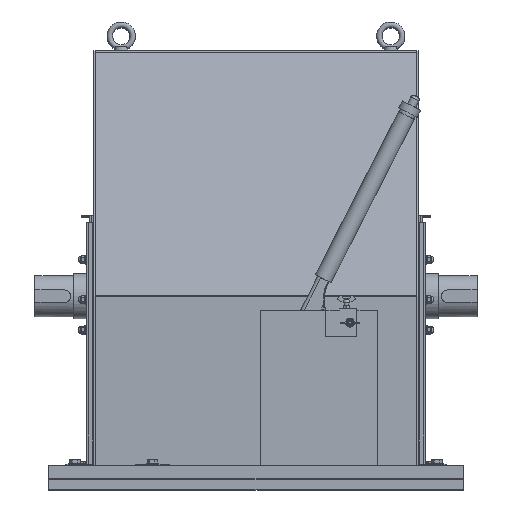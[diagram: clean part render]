
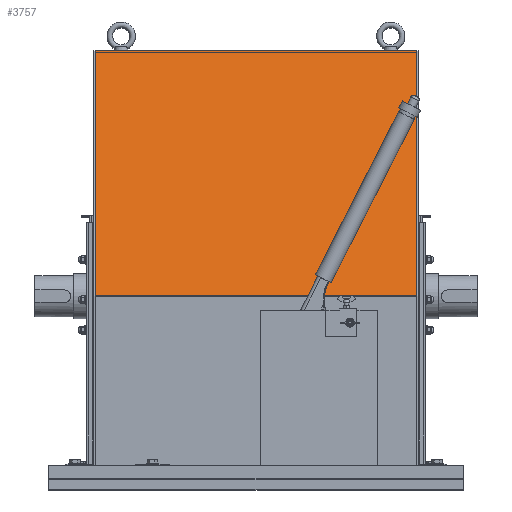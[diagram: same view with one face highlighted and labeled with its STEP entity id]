
A CAD part, top view. The second image highlights one B-rep face of the part: STEP entity #3757.
In plain terms, the highlighted planar face has unit normal (0, 0.271, 0.963).
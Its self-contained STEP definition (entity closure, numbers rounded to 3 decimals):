
#173 = VECTOR ( 'NONE', #5127, 1000. ) ;
#820 = ORIENTED_EDGE ( 'NONE', *, *, #23951, .F. ) ;
#857 = LINE ( 'NONE', #1356, #4217 ) ;
#997 = EDGE_CURVE ( 'NONE', #3687, #5518, #20334, .T. ) ;
#1356 = CARTESIAN_POINT ( 'NONE',  ( 552.7, 355., 245. ) ) ;
#2640 = CARTESIAN_POINT ( 'NONE',  ( 552.7, 355., 245. ) ) ;
#3586 = VERTEX_POINT ( 'NONE', #2640 ) ;
#3687 = VERTEX_POINT ( 'NONE', #21141 ) ;
#3757 = ADVANCED_FACE ( 'NONE', ( #6392 ), #26352, .F. ) ;
#3956 = DIRECTION ( 'NONE',  ( 0., 0.963, -0.271 ) ) ;
#4217 = VECTOR ( 'NONE', #30746, 1000. ) ;
#5127 = DIRECTION ( 'NONE',  ( -1., 0., 0. ) ) ;
#5518 = VERTEX_POINT ( 'NONE', #28576 ) ;
#6392 = FACE_OUTER_BOUND ( 'NONE', #14689, .T. ) ;
#6829 = LINE ( 'NONE', #22042, #17001 ) ;
#9850 = ORIENTED_EDGE ( 'NONE', *, *, #30032, .T. ) ;
#12484 = ORIENTED_EDGE ( 'NONE', *, *, #997, .F. ) ;
#13228 = VERTEX_POINT ( 'NONE', #28806 ) ;
#14252 = DIRECTION ( 'NONE',  ( 0., -0.963, 0.271 ) ) ;
#14689 = EDGE_LOOP ( 'NONE', ( #15612, #12484, #820, #9850 ) ) ;
#15612 = ORIENTED_EDGE ( 'NONE', *, *, #17834, .T. ) ;
#16823 = DIRECTION ( 'NONE',  ( 0., -0.963, 0.271 ) ) ;
#16877 = CARTESIAN_POINT ( 'NONE',  ( 87.3, 0., 345. ) ) ;
#17001 = VECTOR ( 'NONE', #16823, 1000. ) ;
#17834 = EDGE_CURVE ( 'NONE', #13228, #5518, #29122, .T. ) ;
#19208 = VECTOR ( 'NONE', #14252, 1000. ) ;
#20334 = LINE ( 'NONE', #29965, #173 ) ;
#21141 = CARTESIAN_POINT ( 'NONE',  ( 552.7, 0., 345. ) ) ;
#21464 = DIRECTION ( 'NONE',  ( 0., -0.271, -0.963 ) ) ;
#22042 = CARTESIAN_POINT ( 'NONE',  ( 552.7, 0., 345. ) ) ;
#23951 = EDGE_CURVE ( 'NONE', #3586, #3687, #6829, .T. ) ;
#26352 = PLANE ( 'NONE',  #29477 ) ;
#28467 = CARTESIAN_POINT ( 'NONE',  ( 552.7, 0., 345. ) ) ;
#28576 = CARTESIAN_POINT ( 'NONE',  ( 87.3, 0., 345. ) ) ;
#28806 = CARTESIAN_POINT ( 'NONE',  ( 87.3, 355., 245. ) ) ;
#29122 = LINE ( 'NONE', #16877, #19208 ) ;
#29477 = AXIS2_PLACEMENT_3D ( 'NONE', #28467, #21464, #3956 ) ;
#29965 = CARTESIAN_POINT ( 'NONE',  ( 552.7, 0., 345. ) ) ;
#30032 = EDGE_CURVE ( 'NONE', #3586, #13228, #857, .T. ) ;
#30746 = DIRECTION ( 'NONE',  ( -1., 0., 0. ) ) ;
